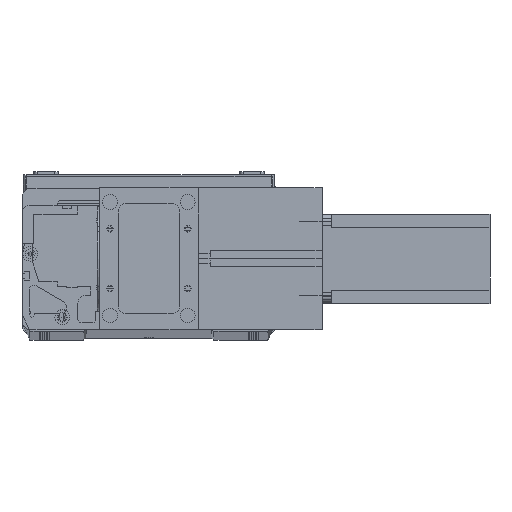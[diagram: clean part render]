
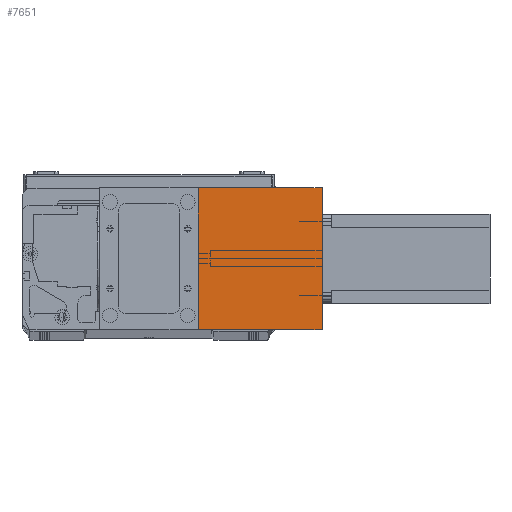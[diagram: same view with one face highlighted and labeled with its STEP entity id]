
A CAD part, top view. The second image highlights one B-rep face of the part: STEP entity #7651.
In plain terms, the highlighted planar face has unit normal (0, 0, 1) as drawn and (1, 0, 0) by its records, which use the part's own axes.
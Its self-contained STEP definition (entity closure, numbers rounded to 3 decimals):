
#937 = VECTOR ( 'NONE', #22038, 1000. ) ;
#1400 = DIRECTION ( 'NONE',  ( 0., 0., 1. ) ) ;
#3386 = DIRECTION ( 'NONE',  ( -1., 0., 0. ) ) ;
#3518 = CARTESIAN_POINT ( 'NONE',  ( 82., 0., 83. ) ) ;
#4429 = FACE_OUTER_BOUND ( 'NONE', #21560, .T. ) ;
#4694 = DIRECTION ( 'NONE',  ( 0., 1., 0. ) ) ;
#4708 = CARTESIAN_POINT ( 'NONE',  ( 82., 95., 0. ) ) ;
#6243 = EDGE_CURVE ( 'NONE', #29677, #9156, #31141, .T. ) ;
#6379 = PLANE ( 'NONE',  #9029 ) ;
#6642 = ORIENTED_EDGE ( 'NONE', *, *, #11520, .F. ) ;
#6821 = VECTOR ( 'NONE', #13627, 1000. ) ;
#7125 = EDGE_CURVE ( 'NONE', #9156, #19528, #26364, .T. ) ;
#7651 = ADVANCED_FACE ( 'NONE', ( #4429 ), #6379, .F. ) ;
#9029 = AXIS2_PLACEMENT_3D ( 'NONE', #27829, #3386, #1400 ) ;
#9156 = VERTEX_POINT ( 'NONE', #17099 ) ;
#10080 = VECTOR ( 'NONE', #4694, 1000. ) ;
#11377 = ORIENTED_EDGE ( 'NONE', *, *, #27025, .F. ) ;
#11520 = EDGE_CURVE ( 'NONE', #29677, #27935, #16624, .T. ) ;
#13457 = ORIENTED_EDGE ( 'NONE', *, *, #6243, .T. ) ;
#13627 = DIRECTION ( 'NONE',  ( 0., 1., 0. ) ) ;
#16624 = LINE ( 'NONE', #3518, #10080 ) ;
#16721 = LINE ( 'NONE', #19273, #29484 ) ;
#17091 = CARTESIAN_POINT ( 'NONE',  ( 82., 0., 0. ) ) ;
#17099 = CARTESIAN_POINT ( 'NONE',  ( 82., 0., 0. ) ) ;
#19034 = ORIENTED_EDGE ( 'NONE', *, *, #7125, .T. ) ;
#19273 = CARTESIAN_POINT ( 'NONE',  ( 82., 95., 83. ) ) ;
#19528 = VERTEX_POINT ( 'NONE', #4708 ) ;
#21560 = EDGE_LOOP ( 'NONE', ( #19034, #11377, #6642, #13457 ) ) ;
#22038 = DIRECTION ( 'NONE',  ( 0., 0., -1. ) ) ;
#22242 = CARTESIAN_POINT ( 'NONE',  ( 82., 0., 83. ) ) ;
#26364 = LINE ( 'NONE', #17091, #6821 ) ;
#27025 = EDGE_CURVE ( 'NONE', #27935, #19528, #16721, .T. ) ;
#27829 = CARTESIAN_POINT ( 'NONE',  ( 82., 0., 83. ) ) ;
#27935 = VERTEX_POINT ( 'NONE', #28329 ) ;
#27996 = CARTESIAN_POINT ( 'NONE',  ( 82., 0., 83. ) ) ;
#28329 = CARTESIAN_POINT ( 'NONE',  ( 82., 95., 83. ) ) ;
#28769 = DIRECTION ( 'NONE',  ( 0., 0., -1. ) ) ;
#29484 = VECTOR ( 'NONE', #28769, 1000. ) ;
#29677 = VERTEX_POINT ( 'NONE', #27996 ) ;
#31141 = LINE ( 'NONE', #22242, #937 ) ;
